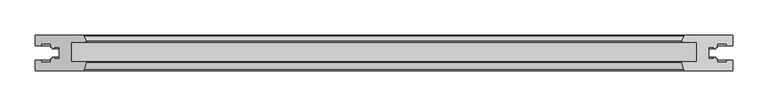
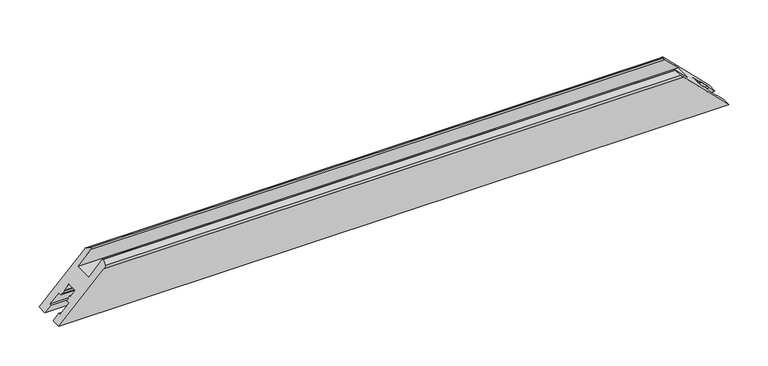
"""IFC4 building model written with IfcOpenShell, lengths in millimetres: proxy geometry, Weiku - Montante - Folha de correr 02.2.01.020 : Weiku - Montante - Folha de correr 02.2.01.020."""

from ifc_helpers import new_model, si_unit, frame, origin, place, context, project, spatial, ellipse_curve, source, transform, mapped, element, save
from ifc_brep_helpers import plane_surface, cylinder_surface, advanced_brep


def generic_models_7989660d(model_context):
    return source(origin(), model_context, "Body", "AdvancedBrep", [
        advanced_brep(
        [(493.5, -50.0, 0.0), (427.0004942, -50.0, 66.4995058), (-427.0004942, -50.0, 66.4995058), (-493.5, -50.0, 0.0), (-493.5, -35.5, 0.0), (493.5, -35.5, 0.0), (-493.5, 0.0, 0.0), (-425.9879875, 0.0, 67.5120125), (425.9879875, 0.0, 67.5120125), (493.5, 0.0, 0.0), (-424.1027168, -47.7764571, 69.3972832), (-421.5177981, -38.1294095, 71.9822019), (-422.0007611, -37.5, 71.4992389), (-442.5007611, -37.5, 50.9992389), (-442.5007611, -9.5, 50.9992389), (-422.7141895, -9.5, 70.7858105), (-421.5520406, -7.617411, 71.9479594), (-425.0940268, -0.5518546, 68.4059732), (-493.5, -14.5, 0.0), (-484.9, -14.5, 8.6), (-484.9, -11.7, 8.6), (-471.7, -11.7, 21.8), (-471.7, -16.9, 21.8), (-469.3524152, -16.9, 24.1475848), (-469.5273926, -18.9, 23.9726074), (-466.7, -18.9, 26.8), (-466.7, -16.9, 26.8), (-459.5, -16.9, 34.0), (-459.5, -33.1, 34.0), (-466.7, -33.1, 26.8), (-466.7, -31.1, 26.8), (-469.5273926, -31.1, 23.9726074), (-469.3524152, -33.1, 24.1475848), (-471.7, -33.1, 21.8), (-471.7, -38.3, 21.8), (-484.9, -38.3, 8.6), (-484.9, -35.5, 8.6), (484.9, -35.5, 8.6), (484.9, -38.3, 8.6), (471.7, -38.3, 21.8), (471.7, -33.1, 21.8), (469.3524152, -33.1, 24.1475848), (469.5273926, -31.1, 23.9726074), (466.7, -31.1, 26.8), (466.7, -33.1, 26.8), (459.5, -33.1, 34.0), (459.5, -16.9, 34.0), (466.7, -16.9, 26.8), (466.7, -18.9, 26.8), (469.5273926, -18.9, 23.9726074), (469.3524152, -16.9, 24.1475848), (471.7, -16.9, 21.8), (471.7, -11.7, 21.8), (484.9, -11.7, 8.6), (484.9, -14.5, 8.6), (493.5, -14.5, 0.0), (425.0940268, -0.5518546, 68.4059732), (421.5520406, -7.617411, 71.9479594), (422.7141895, -9.5, 70.7858105), (442.5007611, -9.5, 50.9992389), (442.5007611, -37.5, 50.9992389), (422.0007611, -37.5, 71.4992389), (421.5177981, -38.1294095, 71.9822019), (424.1027168, -47.7764571, 69.3972832)],
        [
            (0, 1),
            (1, 2),
            (2, 3),
            (3, 0),
            (3, 4),
            (4, 5),
            (5, 0),
            (6, 7),
            (7, 8),
            (8, 9),
            (9, 6),
            (2, 10, ellipse_curve(frame((-427.0004942, -47.0, 66.4995058), z_axis=(-0.707106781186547, 0.0, 0.7071067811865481), x_axis=(-0.7071067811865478, 0.0, -0.707106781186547)), 4.2426407, 3.0)),
            (10, 11),
            (11, 12, ellipse_curve(frame((-422.0007611, -38.0, 71.4992389), z_axis=(-0.707106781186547, 0.0, 0.7071067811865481), x_axis=(-0.7071067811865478, 0.0, -0.707106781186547)), 0.7071068, 0.5)),
            (12, 13),
            (13, 14),
            (14, 15),
            (15, 16, ellipse_curve(frame((-422.7141895, -8.2, 70.7858105), z_axis=(-0.707106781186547, 0.0, 0.7071067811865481), x_axis=(-0.7071067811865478, 0.0, -0.707106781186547)), 1.8384776, 1.3)),
            (16, 17),
            (17, 7, ellipse_curve(frame((-425.9879875, -1.0, 67.5120125), z_axis=(-0.707106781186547, 0.0, 0.7071067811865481), x_axis=(-0.7071067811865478, 0.0, -0.707106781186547)), 1.4142136, 1.0)),
            (6, 18),
            (18, 19),
            (19, 20),
            (20, 21),
            (21, 22),
            (22, 23),
            (23, 24),
            (24, 25),
            (25, 26),
            (26, 27),
            (27, 28),
            (28, 29),
            (29, 30),
            (30, 31),
            (31, 32),
            (32, 33),
            (33, 34),
            (34, 35),
            (35, 36),
            (36, 4),
            (5, 37),
            (37, 38),
            (38, 39),
            (39, 40),
            (40, 41),
            (41, 42),
            (42, 43),
            (43, 44),
            (44, 45),
            (45, 46),
            (46, 47),
            (47, 48),
            (48, 49),
            (49, 50),
            (50, 51),
            (51, 52),
            (52, 53),
            (53, 54),
            (54, 55),
            (55, 9),
            (8, 56, ellipse_curve(frame((425.9879875, -1.0, 67.5120125), z_axis=(0.7071067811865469, 0.0, 0.7071067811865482), x_axis=(-0.707106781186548, 0.0, 0.7071067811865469)), 1.4142136, 1.0)),
            (56, 57),
            (57, 58, ellipse_curve(frame((422.7141895, -8.2, 70.7858105), z_axis=(0.7071067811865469, 0.0, 0.7071067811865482), x_axis=(-0.707106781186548, 0.0, 0.7071067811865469)), 1.8384776, 1.3)),
            (58, 59),
            (59, 60),
            (60, 61),
            (61, 62, ellipse_curve(frame((422.0007611, -38.0, 71.4992389), z_axis=(0.7071067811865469, 0.0, 0.7071067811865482), x_axis=(-0.707106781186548, 0.0, 0.7071067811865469)), 0.7071068, 0.5)),
            (62, 63),
            (63, 1, ellipse_curve(frame((427.0004942, -47.0, 66.4995058), z_axis=(0.7071067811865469, 0.0, 0.7071067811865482), x_axis=(-0.707106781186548, 0.0, 0.7071067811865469)), 4.2426407, 3.0)),
            (17, 56),
            (16, 57),
            (15, 58),
            (14, 59),
            (13, 60),
            (12, 61),
            (11, 62),
            (10, 63),
            (36, 37),
            (35, 38),
            (34, 39),
            (33, 40),
            (32, 41),
            (31, 42),
            (30, 43),
            (29, 44),
            (28, 45),
            (27, 46),
            (26, 47),
            (25, 48),
            (24, 49),
            (23, 50),
            (22, 51),
            (21, 52),
            (20, 53),
            (19, 54),
            (18, 55),
        ],
        [
            plane_surface(frame((-493.5, -50.0, 66.4995058), z_axis=(0.0, -1.0, 0.0), x_axis=(1.0, 0.0, 0.0))),
            plane_surface(frame((-493.5, -50.0, 0.0), z_axis=(0.0, 0.0, -1.0), x_axis=(1.0, 0.0, 0.0))),
            plane_surface(frame((-493.5, 0.0, 0.0), z_axis=(0.0, 1.0, 0.0), x_axis=(1.0, 0.0, 0.0))),
            plane_surface(frame((-521.7842712, 0.0, -28.2842712), z_axis=(-0.707106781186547, 0.0, 0.7071067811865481), x_axis=(0.0, -1.0, 0.0))),
            plane_surface(frame((413.5, 0.0, 80.0), z_axis=(0.7071067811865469, 0.0, 0.7071067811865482), x_axis=(0.0, -1.0, 0.0))),
            cylinder_surface(frame((-493.5, -1.0, 67.5120125), z_axis=(-1.0, 0.0, 0.0), x_axis=(0.0, -1.0, 0.0)), 1.0),
            plane_surface(frame((-493.5, -0.5518546, 68.4059732), z_axis=(0.0, 0.4481453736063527, 0.8939606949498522), x_axis=(1.0, 0.0, 0.0))),
            cylinder_surface(frame((-493.5, -8.2, 70.7858105), z_axis=(-1.0, 0.0, 0.0), x_axis=(0.0, -1.0, 0.0)), 1.3),
            plane_surface(frame((-493.5, -9.5, 70.7858105), z_axis=(0.0, -1.0, 0.0), x_axis=(1.0, 0.0, 0.0))),
            plane_surface(frame((-493.5, -9.5, 50.9992389), z_axis=(0.0, 0.0, 1.0), x_axis=(1.0, 0.0, 0.0))),
            plane_surface(frame((-493.5, -37.5, 50.9992389), z_axis=(0.0, 1.0, 0.0), x_axis=(1.0, 0.0, 0.0))),
            cylinder_surface(frame((-493.5, -38.0, 71.4992389), z_axis=(-1.0, 0.0, 0.0), x_axis=(0.0, -1.0, 0.0)), 0.5),
            plane_surface(frame((-493.5, -38.1294095, 71.9822019), z_axis=(0.0, -0.2588190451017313, 0.9659258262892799), x_axis=(1.0, 0.0, 0.0))),
            cylinder_surface(frame((-493.5, -47.0, 66.4995058), z_axis=(-1.0, 0.0, 0.0), x_axis=(0.0, -1.0, 0.0)), 3.0),
            plane_surface(frame((-493.5, -35.5, 0.0), z_axis=(0.0, 1.0, 0.0), x_axis=(1.0, 0.0, 0.0))),
            plane_surface(frame((-493.5, -35.5, 8.6), z_axis=(0.0, 0.0, 1.0), x_axis=(1.0, 0.0, 0.0))),
            plane_surface(frame((-493.5, -38.3, 8.6), z_axis=(0.0, 1.0, 0.0), x_axis=(1.0, 0.0, 0.0))),
            plane_surface(frame((-493.5, -38.3, 21.8), z_axis=(0.0, 0.0, -1.0), x_axis=(1.0, 0.0, 0.0))),
            plane_surface(frame((-493.5, -33.1, 21.8), z_axis=(0.0, 1.0, 0.0), x_axis=(1.0, 0.0, 0.0))),
            plane_surface(frame((-493.5, -33.1, 24.1475848), z_axis=(0.0, -0.08715574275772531, -0.9961946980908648), x_axis=(1.0, 0.0, 0.0))),
            plane_surface(frame((-493.5, -31.1, 23.9726074), z_axis=(0.0, 1.0, 0.0), x_axis=(1.0, 0.0, 0.0))),
            plane_surface(frame((-493.5, -31.1, 26.8), z_axis=(0.0, 0.0, 1.0), x_axis=(1.0, 0.0, 0.0))),
            plane_surface(frame((-493.5, -33.1, 26.8), z_axis=(0.0, 1.0, 0.0), x_axis=(1.0, 0.0, 0.0))),
            plane_surface(frame((-493.5, -33.1, 34.0), z_axis=(0.0, 0.0, -1.0), x_axis=(1.0, 0.0, 0.0))),
            plane_surface(frame((-493.5, -16.9, 34.0), z_axis=(0.0, -1.0, 0.0), x_axis=(1.0, 0.0, 0.0))),
            plane_surface(frame((-493.5, -16.9, 26.8), z_axis=(0.0, 0.0, 1.0), x_axis=(1.0, 0.0, 0.0))),
            plane_surface(frame((-493.5, -18.9, 26.8), z_axis=(0.0, -1.0, 0.0), x_axis=(1.0, 0.0, 0.0))),
            plane_surface(frame((-493.5, -18.9, 23.9726074), z_axis=(0.0, 0.08715574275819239, -0.9961946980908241), x_axis=(1.0, 0.0, 0.0))),
            plane_surface(frame((-493.5, -16.9, 24.1475848), z_axis=(0.0, -1.0, 0.0), x_axis=(1.0, 0.0, 0.0))),
            plane_surface(frame((-493.5, -16.9, 21.8), z_axis=(0.0, 0.0, -1.0), x_axis=(1.0, 0.0, 0.0))),
            plane_surface(frame((-493.5, -11.7, 21.8), z_axis=(0.0, -1.0, 0.0), x_axis=(1.0, 0.0, 0.0))),
            plane_surface(frame((-493.5, -11.7, 8.6), z_axis=(0.0, 0.0, 1.0), x_axis=(1.0, 0.0, 0.0))),
            plane_surface(frame((-493.5, -14.5, 8.6), z_axis=(0.0, -1.0, 0.0), x_axis=(1.0, 0.0, 0.0))),
            plane_surface(frame((-493.5, -14.5, 0.0), z_axis=(0.0, 0.0, -1.0), x_axis=(1.0, 0.0, 0.0))),
        ],
        [
            (0, [[1, 2, 3, 4]]),
            (1, [[5, 6, 7, -4]]),
            (2, [[8, 9, 10, 11]]),
            (3, [[12, 13, 14, 15, 16, 17, 18, 19, 20, -8, 21, 22, 23, 24, 25, 26, 27, 28, 29, 30, 31, 32, 33, 34, 35, 36, 37, 38, 39, 40, -5, -3]]),
            (4, [[-7, 41, 42, 43, 44, 45, 46, 47, 48, 49, 50, 51, 52, 53, 54, 55, 56, 57, 58, 59, 60, -10, 61, 62, 63, 64, 65, 66, 67, 68, 69, -1]]),
            (5, [[70, -61, -9, -20]]),
            (6, [[71, -62, -70, -19]]),
            (7, [[72, -63, -71, -18]]),
            (8, [[73, -64, -72, -17]]),
            (9, [[74, -65, -73, -16]]),
            (10, [[75, -66, -74, -15]]),
            (11, [[76, -67, -75, -14]]),
            (12, [[77, -68, -76, -13]]),
            (13, [[-2, -69, -77, -12]]),
            (14, [[-40, 78, -41, -6]]),
            (15, [[79, -42, -78, -39]]),
            (16, [[80, -43, -79, -38]]),
            (17, [[81, -44, -80, -37]]),
            (18, [[82, -45, -81, -36]]),
            (19, [[83, -46, -82, -35]]),
            (20, [[84, -47, -83, -34]]),
            (21, [[85, -48, -84, -33]]),
            (22, [[86, -49, -85, -32]]),
            (23, [[87, -50, -86, -31]]),
            (24, [[88, -51, -87, -30]]),
            (25, [[89, -52, -88, -29]]),
            (26, [[90, -53, -89, -28]]),
            (27, [[91, -54, -90, -27]]),
            (28, [[92, -55, -91, -26]]),
            (29, [[93, -56, -92, -25]]),
            (30, [[94, -57, -93, -24]]),
            (31, [[95, -58, -94, -23]]),
            (32, [[-59, -95, -22, 96]]),
            (33, [[-60, -96, -21, -11]]),
        ],
    ),
    ])


if __name__ == "__main__":
    model = new_model("IFC4")
    model_context = context("Model", 3, world=origin())
    ifc_project = project(units=[si_unit("LENGTHUNIT", "METRE", prefix="MILLI")], contexts=[model_context])
    site = spatial("IfcSite", under=ifc_project)
    building = spatial("IfcBuilding", under=site)
    placement = place(None, origin())
    generic_models_shape = generic_models_7989660d(model_context)
    element("IfcBuildingElementProxy", 1, Name="Weiku - Montante - Folha de correr 02.2.01.020 : Weiku - Montante - Folha de correr 02.2.01.020", ObjectType="Weiku - Montante - Folha de correr 02.2.01.020 : Weiku - Montante - Folha de correr 02.2.01.020", at=placement, inside=building, context=model_context, shape_type="MappedRepresentation", body=[
        mapped(generic_models_shape, transform((0.0, 0.0, 0.0), x_axis=(1.0, 0.0, 0.0), y_axis=(0.0, 1.0, 0.0), z_axis=(0.0, 0.0, 1.0))),
    ])
    save(model, "model.ifc")
